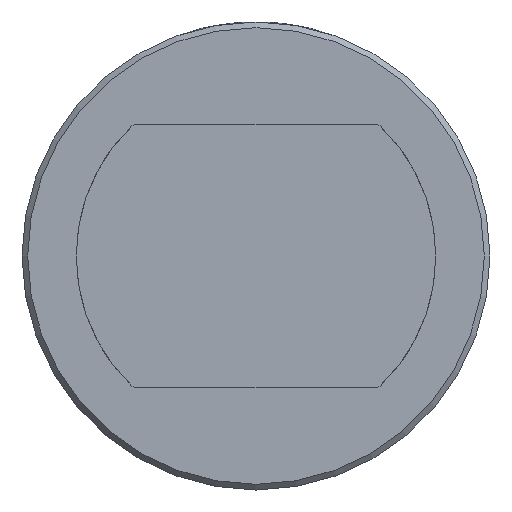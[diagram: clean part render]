
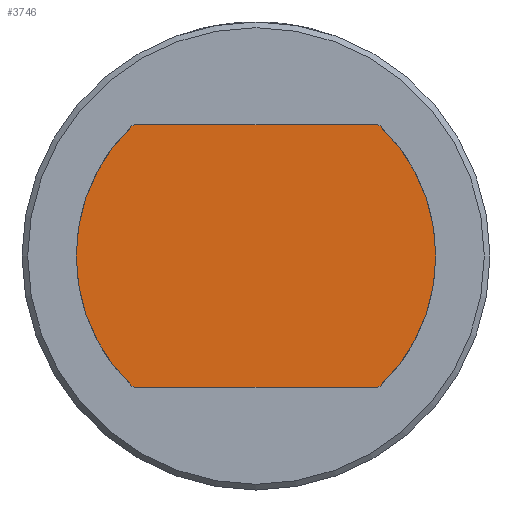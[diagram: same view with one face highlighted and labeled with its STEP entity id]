
A CAD part, left-side view. The second image highlights one B-rep face of the part: STEP entity #3746.
In plain terms, the highlighted planar face has unit normal (-1, 0, 0) as drawn and (0, -1, 0) by its records, which use the part's own axes.
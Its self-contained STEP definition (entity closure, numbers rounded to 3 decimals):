
#233=PLANE('',#4292);
#513=FACE_OUTER_BOUND('',#778,.T.);
#778=EDGE_LOOP('',(#3409,#3410,#3411,#3412,#3413,#3414,#3415,#3416));
#956=CIRCLE('',#4249,31.5);
#962=CIRCLE('',#4257,31.5);
#1273=LINE('',#15776,#1427);
#1284=LINE('',#15830,#1438);
#1289=LINE('',#15858,#1443);
#1295=LINE('',#15886,#1449);
#1297=LINE('',#15889,#1451);
#1298=LINE('',#15900,#1452);
#1427=VECTOR('',#5197,10.);
#1438=VECTOR('',#5226,10.);
#1443=VECTOR('',#5247,10.);
#1449=VECTOR('',#5261,10.);
#1451=VECTOR('',#5265,10.);
#1452=VECTOR('',#5272,10.);
#1760=VERTEX_POINT('',#15774);
#1761=VERTEX_POINT('',#15775);
#1771=VERTEX_POINT('',#15811);
#1777=VERTEX_POINT('',#15827);
#1778=VERTEX_POINT('',#15829);
#1784=VERTEX_POINT('',#15843);
#1787=VERTEX_POINT('',#15857);
#1794=VERTEX_POINT('',#15885);
#2267=EDGE_CURVE('',#1760,#1761,#1273,.T.);
#2280=EDGE_CURVE('',#1761,#1771,#956,.T.);
#2288=EDGE_CURVE('',#1777,#1778,#1284,.T.);
#2296=EDGE_CURVE('',#1784,#1777,#962,.T.);
#2300=EDGE_CURVE('',#1771,#1787,#1289,.T.);
#2310=EDGE_CURVE('',#1794,#1787,#1295,.T.);
#2312=EDGE_CURVE('',#1794,#1784,#1297,.T.);
#2316=EDGE_CURVE('',#1760,#1778,#1298,.T.);
#3409=ORIENTED_EDGE('',*,*,#2267,.F.);
#3410=ORIENTED_EDGE('',*,*,#2316,.T.);
#3411=ORIENTED_EDGE('',*,*,#2288,.F.);
#3412=ORIENTED_EDGE('',*,*,#2296,.F.);
#3413=ORIENTED_EDGE('',*,*,#2312,.F.);
#3414=ORIENTED_EDGE('',*,*,#2310,.T.);
#3415=ORIENTED_EDGE('',*,*,#2300,.F.);
#3416=ORIENTED_EDGE('',*,*,#2280,.F.);
#3746=ADVANCED_FACE('',(#513),#233,.T.);
#4249=AXIS2_PLACEMENT_3D('',#15812,#5214,#5215);
#4257=AXIS2_PLACEMENT_3D('',#15845,#5239,#5240);
#4292=AXIS2_PLACEMENT_3D('',#17317,#5324,#5325);
#5197=DIRECTION('',(-0.929,0.,0.37));
#5214=DIRECTION('center_axis',(0.,1.,0.));
#5215=DIRECTION('ref_axis',(1.,0.,0.));
#5226=DIRECTION('',(-0.929,0.,-0.37));
#5239=DIRECTION('center_axis',(0.,1.,0.));
#5240=DIRECTION('ref_axis',(1.,0.,0.));
#5247=DIRECTION('',(0.929,0.,0.37));
#5261=DIRECTION('',(-1.,0.,0.));
#5265=DIRECTION('',(0.929,0.,-0.37));
#5272=DIRECTION('',(1.,0.,0.));
#5324=DIRECTION('center_axis',(0.,-1.,0.));
#5325=DIRECTION('ref_axis',(0.,0.,-1.));
#15774=CARTESIAN_POINT('',(-21.223,0.,-23.));
#15775=CARTESIAN_POINT('',(-21.741,0.,-22.794));
#15776=CARTESIAN_POINT('',(-21.547,0.,-22.871));
#15811=CARTESIAN_POINT('',(-21.741,0.,22.794));
#15812=CARTESIAN_POINT('Origin',(0.,0.,0.));
#15827=CARTESIAN_POINT('',(21.741,0.,-22.794));
#15829=CARTESIAN_POINT('',(21.223,0.,-23.));
#15830=CARTESIAN_POINT('',(21.547,0.,-22.871));
#15843=CARTESIAN_POINT('',(21.741,0.,22.794));
#15845=CARTESIAN_POINT('Origin',(0.,0.,0.));
#15857=CARTESIAN_POINT('',(-21.223,0.,23.));
#15858=CARTESIAN_POINT('',(-10.731,0.,27.173));
#15885=CARTESIAN_POINT('',(21.223,0.,23.));
#15886=CARTESIAN_POINT('',(18.75,0.,23.));
#15889=CARTESIAN_POINT('',(10.731,0.,27.173));
#15900=CARTESIAN_POINT('',(-21.25,0.,-23.));
#17317=CARTESIAN_POINT('Origin',(0.,0.,31.5));
